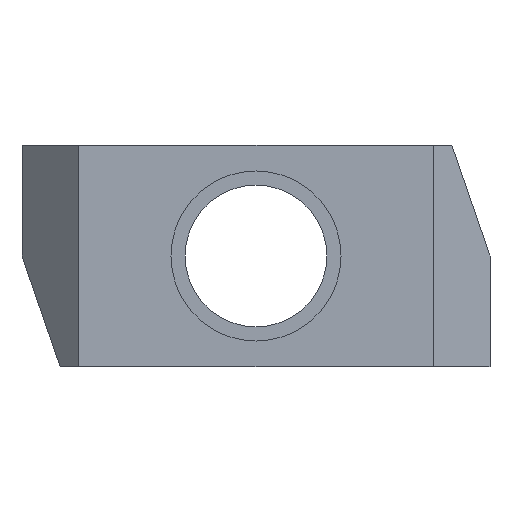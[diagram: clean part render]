
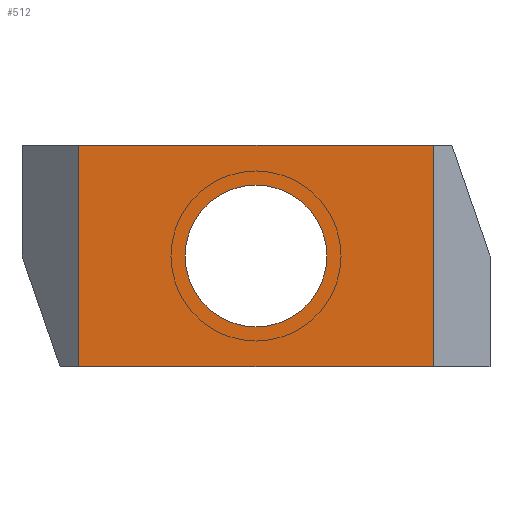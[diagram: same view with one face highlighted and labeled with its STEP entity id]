
A CAD part, front view. The second image highlights one B-rep face of the part: STEP entity #512.
In plain terms, the highlighted planar face has unit normal (0, -1, 0).
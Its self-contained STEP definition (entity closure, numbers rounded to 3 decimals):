
#131=DIRECTION('',(0.,0.,1.));
#132=VECTOR('',#131,7.8);
#133=CARTESIAN_POINT('',(6.25,-4.,-3.9));
#134=LINE('',#133,#132);
#151=DIRECTION('',(-1.,0.,0.));
#152=VECTOR('',#151,12.5);
#153=CARTESIAN_POINT('',(6.25,-4.,3.9));
#154=LINE('',#153,#152);
#155=DIRECTION('',(1.,0.,0.));
#156=VECTOR('',#155,12.5);
#157=CARTESIAN_POINT('',(-6.25,-4.,-3.9));
#158=LINE('',#157,#156);
#159=CARTESIAN_POINT('',(0.,-4.,0.));
#160=DIRECTION('',(0.,1.,0.));
#161=DIRECTION('',(1.,0.,0.));
#162=AXIS2_PLACEMENT_3D('',#159,#160,#161);
#164=CARTESIAN_POINT('',(0.,-4.,0.));
#165=DIRECTION('',(0.,1.,0.));
#166=DIRECTION('',(-1.,0.,0.));
#167=AXIS2_PLACEMENT_3D('',#164,#165,#166);
#169=DIRECTION('',(0.,0.,-1.));
#170=VECTOR('',#169,7.8);
#171=CARTESIAN_POINT('',(-6.25,-4.,3.9));
#172=LINE('',#171,#170);
#259=CARTESIAN_POINT('',(2.5,-4.,0.));
#260=CARTESIAN_POINT('',(-2.5,-4.,0.));
#261=VERTEX_POINT('',#259);
#262=VERTEX_POINT('',#260);
#267=CARTESIAN_POINT('',(-6.25,-4.,3.9));
#268=CARTESIAN_POINT('',(-6.25,-4.,-3.9));
#269=VERTEX_POINT('',#267);
#270=VERTEX_POINT('',#268);
#277=CARTESIAN_POINT('',(6.25,-4.,-3.9));
#278=CARTESIAN_POINT('',(6.25,-4.,3.9));
#279=VERTEX_POINT('',#277);
#280=VERTEX_POINT('',#278);
#494=CARTESIAN_POINT('',(0.,-4.,0.));
#495=DIRECTION('',(0.,1.,0.));
#496=DIRECTION('',(1.,0.,0.));
#497=AXIS2_PLACEMENT_3D('',#494,#495,#496);
#498=PLANE('',#497);
#499=ORIENTED_EDGE('',*,*,#440,.F.);
#500=ORIENTED_EDGE('',*,*,#485,.F.);
#501=ORIENTED_EDGE('',*,*,#353,.F.);
#503=ORIENTED_EDGE('',*,*,#502,.F.);
#504=EDGE_LOOP('',(#499,#500,#501,#503));
#505=FACE_OUTER_BOUND('',#504,.F.);
#507=ORIENTED_EDGE('',*,*,#506,.F.);
#509=ORIENTED_EDGE('',*,*,#508,.F.);
#510=EDGE_LOOP('',(#507,#509));
#511=FACE_BOUND('',#510,.F.);
#512=ADVANCED_FACE('',(#505,#511),#498,.F.);
#163=CIRCLE('',#162,2.5);
#168=CIRCLE('',#167,2.5);
#353=EDGE_CURVE('',#270,#279,#158,.T.);
#440=EDGE_CURVE('',#280,#269,#154,.T.);
#485=EDGE_CURVE('',#279,#280,#134,.T.);
#502=EDGE_CURVE('',#269,#270,#172,.T.);
#506=EDGE_CURVE('',#261,#262,#163,.T.);
#508=EDGE_CURVE('',#262,#261,#168,.T.);
